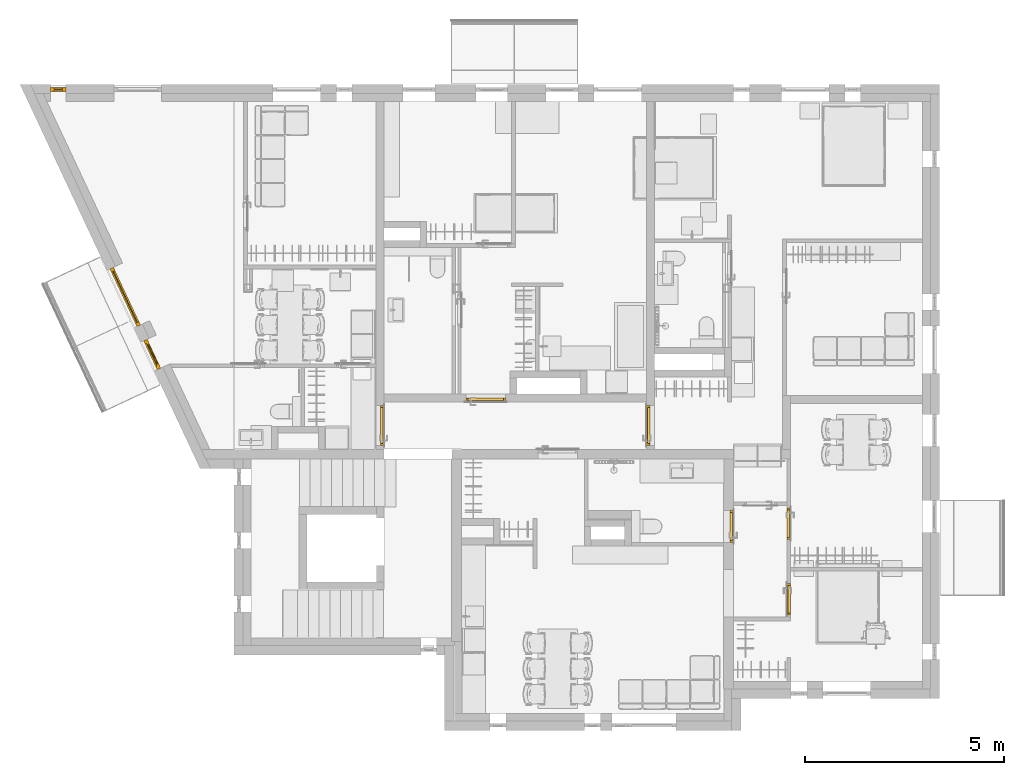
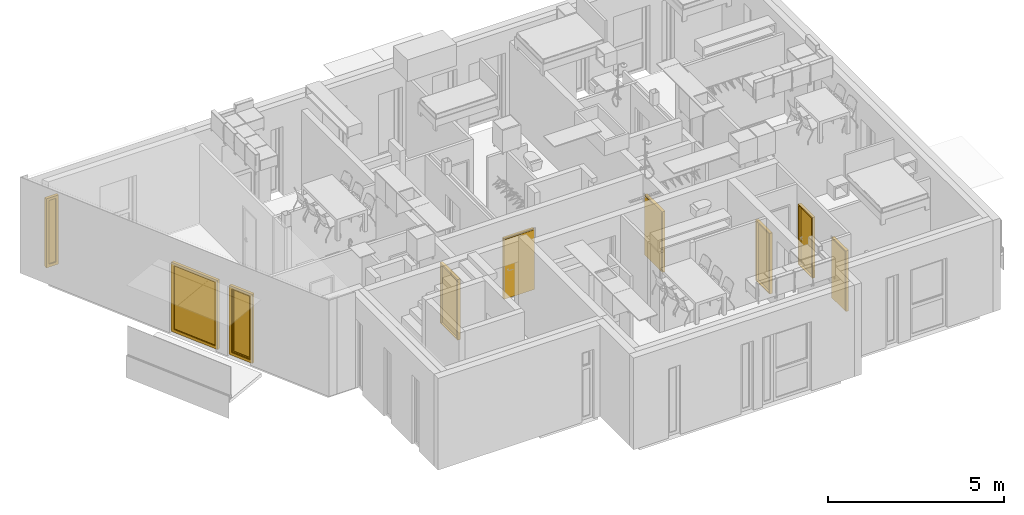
# One storey, part 12 of 68: 6 doors, 3 windows.
"""IFC2X3 building model written with IfcOpenShell, lengths in millimetres."""

import ifcopenshell
import ifcopenshell.guid

model = None  # the IFC model being written
_history = None  # IfcOwnerHistory: only IFC2X3 demands one
_inside = {}  # id of a spatial element -> (the spatial element, [elements in it])
_under = {}  # id of a project, library or spatial element -> (it, [spatial elements below it])
_declared = {}  # id of a project -> (the project, [libraries it declares])
_typed = {}  # id of a type object -> (the type object, [elements of that type])
_made_of = {}  # id of a material, layer set ... -> (it, [elements and type objects made of it])


def new_model(schema):
    """Start an empty IFC model of exactly this schema.

    Asked for "IFC4X3", IfcOpenShell would pick the latest addendum, in which some entities
    have other attributes; the version numbers below select the first issue.
    IFC2X3 requires an IfcOwnerHistory on every rooted entity: one is made here for all.
    """
    global model, _history
    if schema == "IFC4X3":
        model = ifcopenshell.file(schema_version=(4, 3, 0, 0))
    else:
        model = ifcopenshell.file(schema=schema)
    _inside.clear()
    _under.clear()
    _declared.clear()
    _typed.clear()
    _made_of.clear()
    _history = None
    if model.schema == "IFC2X3":
        org = make("IfcOrganization", Name="unknown")
        user = make(
            "IfcPersonAndOrganization",
            ThePerson=make("IfcPerson", FamilyName="unknown"),
            TheOrganization=org,
        )
        app = make(
            "IfcApplication",
            ApplicationDeveloper=org,
            Version="unknown",
            ApplicationFullName="unknown",
            ApplicationIdentifier="unknown",
        )
        _history = make(
            "IfcOwnerHistory",
            OwningUser=user,
            OwningApplication=app,
            ChangeAction="ADDED",
            CreationDate=0,
        )
    return model


def make(cls, **values):
    """One entity of the class cls with the attributes given. An attribute that is None is left unset."""
    return model.create_entity(
        cls, **{name: value for name, value in values.items() if value is not None}
    )


def entity(cls, *values):
    """Any entity or typed value of the class cls, its attributes in the order of the schema. None: left unset."""
    e = model.create_entity(cls)
    for i, value in enumerate(values):
        if value is not None:
            e[i] = value
    return e


def rooted(cls, **values):
    """An entity with a GlobalId (a new one), such as an element, a storey or a relation."""
    return make(cls, GlobalId=ifcopenshell.guid.new(), OwnerHistory=_history, **values)


def si_unit(unit_type, name, prefix=None):
    """IfcSIUnit, for example si_unit("LENGTHUNIT", "METRE", prefix="MILLI")."""
    return make("IfcSIUnit", UnitType=unit_type, Prefix=prefix, Name=name)


def converted_unit(unit_type, name, factor, base, dimensions=None, offset=None):
    """IfcConversionBasedUnit, such as the inch: factor (a typed value) times the base unit."""
    return make(
        "IfcConversionBasedUnit"
        if offset is None
        else "IfcConversionBasedUnitWithOffset",
        ConversionOffset=offset,
        Dimensions=None
        if dimensions is None
        else entity("IfcDimensionalExponents", *dimensions),
        UnitType=unit_type,
        Name=name,
        ConversionFactor=make(
            "IfcMeasureWithUnit", ValueComponent=factor, UnitComponent=base
        ),
    )


def assignment(units):
    """IfcUnitAssignment: the units of a project."""
    return None if units is None else make("IfcUnitAssignment", Units=units)


def point(xyz):
    """IfcCartesianPoint."""
    return None if xyz is None else make("IfcCartesianPoint", Coordinates=xyz)


def direction(xyz):
    """IfcDirection."""
    return None if xyz is None else make("IfcDirection", DirectionRatios=xyz)


def frame(location, z_axis=None, x_axis=None):
    """IfcAxis2Placement3D, a coordinate frame: its origin and axes. An axis left out is left unset."""
    return make(
        "IfcAxis2Placement3D",
        Location=point(location),
        Axis=direction(z_axis),
        RefDirection=direction(x_axis),
    )


def origin():
    """The frame at (0, 0, 0) with its axes left unset."""
    return frame((0.0, 0.0, 0.0))


def place(relative_to, where):
    """IfcLocalPlacement: puts the frame where relative to a parent placement (None: the world)."""
    return make(
        "IfcLocalPlacement", PlacementRelTo=relative_to, RelativePlacement=where
    )


def context(
    kind, dimensions, precision=None, world=None, true_north=None, identifier=None
):
    """IfcGeometricRepresentationContext, for example the 3D "Model" context."""
    return make(
        "IfcGeometricRepresentationContext",
        ContextIdentifier=identifier,
        ContextType=kind,
        CoordinateSpaceDimension=dimensions,
        Precision=precision,
        WorldCoordinateSystem=world,
        TrueNorth=true_north,
    )


def subcontext(parent, identifier, kind, view, scale=None):
    """IfcGeometricRepresentationSubContext, for example "Body" below "Model"."""
    return make(
        "IfcGeometricRepresentationSubContext",
        ContextIdentifier=identifier,
        ContextType=kind,
        ParentContext=parent,
        TargetScale=scale,
        TargetView=view,
    )


def project(units=None, contexts=None):
    """IfcProject with its units and contexts."""
    return rooted(
        "IfcProject",
        Name="project",
        RepresentationContexts=contexts,
        UnitsInContext=assignment(units),
    )


def spatial(cls, under=None, at=None, **own):
    """A site, building, storey or space (cls), placed at a placement, below another one or the project."""
    s = rooted(cls, ObjectPlacement=at, **own)
    if under is not None:
        _under.setdefault(under.id(), (under, []))[1].append(s)
    return s


def faces_of(points, faces, orient=None, outer=None):
    """IfcFace entities. A face is a list of loops; a loop is a list of indices into points, from 0.

    orient and outer hold one flag for each loop. By default every Orientation is true, the
    first loop of a face is its IfcFaceOuterBound and the others are IfcFaceBound.
    """
    made = []
    for i, loops in enumerate(faces):
        bounds = []
        for j, loop in enumerate(loops):
            is_outer = j == 0 if outer is None else outer[i][j]
            bounds.append(
                make(
                    "IfcFaceOuterBound" if is_outer else "IfcFaceBound",
                    Bound=make("IfcPolyLoop", Polygon=[points[k] for k in loop]),
                    Orientation=True if orient is None else orient[i][j],
                )
            )
        made.append(make("IfcFace", Bounds=bounds))
    return made


def faceted_brep(points, faces, orient=None, outer=None, voids=None):
    """IfcFacetedBrep: a solid bounded by flat faces; with voids (closed shells), ...WithVoids."""
    shared = [point(p) for p in points]
    hull = make("IfcClosedShell", CfsFaces=faces_of(shared, faces, orient, outer))
    if voids is None:
        return make("IfcFacetedBrep", Outer=hull)
    return make(
        "IfcFacetedBrepWithVoids",
        Outer=hull,
        Voids=[
            make(cls, CfsFaces=faces_of(shared, fs, o, b)) for cls, fs, o, b in voids
        ],
    )


def shape(context_of_items, identifier, shape_type, items):
    """IfcShapeRepresentation: the items that make up one representation, for example the "Body"."""
    return make(
        "IfcShapeRepresentation",
        ContextOfItems=context_of_items,
        RepresentationIdentifier=identifier,
        RepresentationType=shape_type,
        Items=items,
    )


def source(mapping_origin, context_of_items, identifier, shape_type, items):
    """IfcRepresentationMap: a shape defined once, which mapped items show again and again."""
    return make(
        "IfcRepresentationMap",
        MappingOrigin=mapping_origin,
        MappedRepresentation=shape(context_of_items, identifier, shape_type, items),
    )


def transform(
    local_origin,
    x_axis=None,
    y_axis=None,
    z_axis=None,
    scale=None,
    scale2=None,
    scale3=None,
    uniform=True,
):
    """IfcCartesianTransformationOperator3D, or its non-uniform kind. x_axis, y_axis, z_axis: its Axis1, 2, 3."""
    if uniform:
        return make(
            "IfcCartesianTransformationOperator3D",
            Axis1=direction(x_axis),
            Axis2=direction(y_axis),
            LocalOrigin=point(local_origin),
            Scale=scale,
            Axis3=direction(z_axis),
        )
    return make(
        "IfcCartesianTransformationOperator3DnonUniform",
        Axis1=direction(x_axis),
        Axis2=direction(y_axis),
        LocalOrigin=point(local_origin),
        Scale=scale,
        Axis3=direction(z_axis),
        Scale2=scale2,
        Scale3=scale3,
    )


def mapped(mapping_source, mapping_target):
    """IfcMappedItem: shows the shape of a source again, moved by a transform."""
    return make(
        "IfcMappedItem", MappingSource=mapping_source, MappingTarget=mapping_target
    )


def material(Name=None, Category=None):
    """IfcMaterial."""
    return make("IfcMaterial", Name=Name, Category=Category)


def material_list(materials):
    """IfcMaterialList."""
    return make("IfcMaterialList", Materials=materials)


def made_of(thing, what):
    """Note that an element or type object is made of a material, layer set ...; save() writes the relation."""
    if what is not None:
        _made_of.setdefault(what.id(), (what, []))[1].append(thing)
    return thing


def type_object(cls, material=None, **own):
    """A type object (cls), such as IfcWallType, which elements share."""
    return made_of(rooted(cls, **own), material)


def type_shapes(of_type, sources):
    """Give a type object the sources (RepresentationMaps) that its elements show as mapped items."""
    of_type.RepresentationMaps = sources


def element(
    cls,
    number,
    at=None,
    inside=None,
    cuts=None,
    type_object=None,
    material=None,
    context=None,
    identifier="Body",
    shape_type=None,
    held_by="IfcProductDefinitionShape",
    body=None,
    shapes=None,
    **own,
):
    """One element of the class cls, such as IfcWall. Its Tag is "e" and its number.

    at: its placement. inside: the storey or other place that contains it. cuts: it is an
    opening in that element (IfcRelVoidsElement). A single representation is given by context,
    identifier, shape_type and body (its items); several are given by shapes. held_by: the class
    of the entity that holds the representations. save() writes the other relations.
    """
    e = rooted(cls, Tag="e%d" % number, ObjectPlacement=at, **own)
    if body is not None:
        shapes = [shape(context, identifier, shape_type, body)]
    if shapes is not None:
        e.Representation = make(held_by, Representations=shapes)
    if inside is not None:
        _inside.setdefault(inside.id(), (inside, []))[1].append(e)
    if cuts is not None:
        rooted(
            "IfcRelVoidsElement", RelatingBuildingElement=cuts, RelatedOpeningElement=e
        )
    if type_object is not None:
        _typed.setdefault(type_object.id(), (type_object, []))[1].append(e)
    return made_of(e, material)


def aggregate(whole, parts):
    """IfcRelAggregates: a whole, such as a stair, and the parts it consists of."""
    return rooted("IfcRelAggregates", RelatingObject=whole, RelatedObjects=parts)


def save(model, path):
    """Write the relations noted so far, then the file.

    IfcRelAggregates (storeys below a building ...), IfcRelContainedInSpatialStructure (elements
    in a storey), IfcRelDefinesByType, IfcRelAssociatesMaterial and IfcRelDeclares: one each for
    every whole, place, type object, material and project.
    """
    for whole, parts in _under.values():
        aggregate(whole, parts)
    for where, things in _inside.values():
        rooted(
            "IfcRelContainedInSpatialStructure",
            RelatedElements=things,
            RelatingStructure=where,
        )
    for kind, things in _typed.values():
        rooted("IfcRelDefinesByType", RelatedObjects=things, RelatingType=kind)
    for what, things in _made_of.values():
        rooted("IfcRelAssociatesMaterial", RelatedObjects=things, RelatingMaterial=what)
    for by, libraries in _declared.values():
        rooted("IfcRelDeclares", RelatingContext=by, RelatedDefinitions=libraries)
    model.write(path)


model = new_model("IFC2X3")

# Units and contexts
model_context = context("Model", 3, precision=0.01, world=origin(), true_north=direction((6.123233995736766e-17, 1.0)))
plan_context = context("Plan", 3, precision=0.01, world=origin(), true_north=direction((6.123233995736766e-17, 1.0)))
body_context = subcontext(model_context, "Body", "Model", "MODEL_VIEW")
ifc_project = project(units=[si_unit("LENGTHUNIT", "METRE", prefix="MILLI"), converted_unit("PLANEANGLEUNIT", "DEGREE", entity("IfcPlaneAngleMeasure", 0.017453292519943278), si_unit("PLANEANGLEUNIT", "RADIAN"), dimensions=[0, 0, 0, 0, 0, 0, 0]), si_unit("AREAUNIT", "SQUARE_METRE")], contexts=[model_context, plan_context])

# Site, building, storey
site_placement = place(None, origin())
site = spatial("IfcSite", under=ifc_project, at=site_placement, Name="Default", CompositionType="ELEMENT")
building_placement = place(site_placement, origin())
building = spatial("IfcBuilding", under=site, at=building_placement, CompositionType="ELEMENT")
storey_placement = place(building_placement, frame((0.0, 0.0, 6295.0)))
storey = spatial("IfcBuildingStorey", under=building, at=storey_placement, Name="3K", CompositionType="ELEMENT", Elevation=6294.999999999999)

# Windows
ifc_material_1 = material(Name="_K. Avatäited. Raam. PVC. Valge")
ifc_material_2 = material(Name="_K. Klaas. Pakett")
ifc_material_3 = material(Name="_K. Avatäited. Raam. PVC. RAL9005")
ifc_material_list_1 = material_list([ifc_material_1, ifc_material_2, ifc_material_3])
window_style_1 = type_object("IfcWindowStyle", Name="HR_Window_Generic_Rectangle_1x1:A-01.400x2400.ma", ConstructionType="NOTDEFINED", OperationType="NOTDEFINED", ParameterTakesPrecedence=False, Sizeable=False, material=ifc_material_list_1)
shared_shape_1 = source(origin(), body_context, "Body", "Brep", [
    faceted_brep([(88.0, -194.0, 2312.0), (312.0, -194.0, 2312.0), (312.0, -194.0, 108.0), (88.0, -194.0, 108.0), (342.0, -194.0, 2342.0), (58.0, -194.0, 2342.0), (58.0, -194.0, 78.0), (342.0, -194.0, 78.0), (88.0, -159.0, 2312.0), (88.0, -159.0, 108.0), (312.0, -159.0, 108.0), (342.0, -159.0, 2342.0), (342.0, -159.0, 78.0), (58.0, -159.0, 78.0), (58.0, -159.0, 2342.0), (312.0, -159.0, 2312.0)], [[[0, 1, 2, 3], [4, 5, 6, 7]], [[8, 0, 3, 9]], [[9, 3, 2, 10]], [[11, 12, 13, 14], [15, 8, 9, 10]], [[1, 15, 10, 2]], [[6, 5, 14, 13]], [[7, 6, 13, 12]], [[4, 7, 12, 11]], [[15, 1, 0, 8]], [[5, 4, 11, 14]]], outer=[[False, True], [True], [True], [True, False], [True], [True], [True], [True], [True], [True]]),
    faceted_brep([(342.0, -159.0, 2342.0), (58.0, -159.0, 2342.0), (58.0, -159.0, 78.0), (342.0, -159.0, 78.0), (58.0, -134.0, 2342.0), (58.0, -134.0, 78.0), (342.0, -134.0, 78.0), (342.0, -134.0, 2342.0)], [[[0, 1, 2, 3]], [[2, 1, 4, 5]], [[3, 2, 5, 6]], [[0, 3, 6, 7]], [[7, 6, 5, 4]], [[1, 0, 7, 4]]]),
    faceted_brep([(342.0, -134.0, 78.0), (58.0, -134.0, 78.0), (58.0, -194.0, 78.0), (342.0, -194.0, 78.0), (58.0, -134.0, 2342.0), (58.0, -194.0, 2342.0), (342.0, -134.0, 2342.0), (342.0, -194.0, 2342.0), (88.0, -100.0, 108.0), (88.0, -100.0, 2312.0), (88.0, -134.0, 2312.0), (88.0, -134.0, 108.0), (312.0, -100.0, 108.0), (312.0, -134.0, 108.0), (312.0, -100.0, 2312.0), (312.0, -134.0, 2312.0), (0.0, -100.0, 2400.0), (400.0, -100.0, 2400.0), (400.0, -100.0, 30.0), (0.0, -100.0, 30.0), (400.0, -194.0, 2400.0), (0.0, -194.0, 2400.0), (0.0, -194.0, 30.0), (400.0, -194.0, 30.0), (0.0, -110.0, 30.0), (0.0, -110.0, 0.0), (0.0, -184.0, 0.0), (0.0, -184.0, 30.0), (400.0, -184.0, 30.0), (400.0, -184.0, 0.0), (400.0, -110.0, 0.0), (400.0, -110.0, 30.0)], [[[0, 1, 2, 3]], [[1, 4, 5, 2]], [[6, 0, 3, 7]], [[8, 9, 10, 11]], [[12, 8, 11, 13]], [[14, 12, 13, 15]], [[16, 17, 18, 19], [9, 8, 12, 14]], [[20, 21, 22, 23], [7, 3, 2, 5]], [[21, 16, 19, 24, 25, 26, 27, 22]], [[27, 28, 23, 22]], [[17, 20, 23, 28, 29, 30, 31, 18]], [[31, 24, 19, 18]], [[24, 31, 30, 25]], [[25, 30, 29, 26]], [[28, 27, 26, 29]], [[4, 6, 7, 5]], [[9, 14, 15, 10]], [[21, 20, 17, 16]], [[10, 15, 13, 11], [0, 6, 4, 1]]], outer=[[True], [True], [True], [True], [True], [True], [True, False], [True, False], [True], [True], [True], [True], [True], [True], [True], [True], [True], [True], [False, True]]),
])
type_shapes(window_style_1, [shared_shape_1])
window_1_placement = place(storey_placement, frame((-5055.0, 15850.0, 0.0)))
element("IfcWindow", 1, at=window_1_placement, inside=storey, type_object=window_style_1, material=ifc_material_list_1, Name="HR_Window_Generic_Rectangle_1x1:A-01.400x2400.ma", ObjectType="HR_Window_Generic_Rectangle_1x1:A-01.400x2400.ma", OverallHeight=2465.0000000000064, OverallWidth=400.0000000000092, context=body_context, shape_type="MappedRepresentation", body=[
    mapped(shared_shape_1, transform((0.0, 0.0, 0.0), scale=1.0)),
])
ifc_material_list_2 = material_list([ifc_material_2, ifc_material_3])
window_style_2 = type_object("IfcWindowStyle", Name="HR_Window_Generic_Rectangle_1x1:A-10.800x2400.P", ConstructionType="NOTDEFINED", OperationType="NOTDEFINED", ParameterTakesPrecedence=False, Sizeable=False, material=ifc_material_list_2)
shared_shape_2 = source(origin(), body_context, "Body", "Brep", [
    faceted_brep([(108.0, -154.0, 2292.0), (692.0, -154.0, 2292.0), (692.0, -154.0, 128.0), (108.0, -154.0, 128.0), (692.0, -179.0, 2292.0), (692.0, -179.0, 128.0), (108.0, -179.0, 128.0), (108.0, -179.0, 2292.0)], [[[0, 1, 2, 3]], [[2, 1, 4, 5]], [[3, 2, 5, 6]], [[0, 3, 6, 7]], [[7, 6, 5, 4]], [[1, 0, 7, 4]]]),
    faceted_brep([(692.0, -154.0, 2292.0), (692.0, -154.0, 128.0), (692.0, -179.0, 128.0), (692.0, -179.0, 2292.0), (742.0, -134.0, 2342.0), (58.0, -134.0, 2342.0), (58.0, -194.0, 2342.0), (742.0, -194.0, 2342.0), (128.0, -154.0, 2272.0), (128.0, -134.0, 2272.0), (672.0, -134.0, 2272.0), (672.0, -154.0, 2272.0), (128.0, -179.0, 2272.0), (128.0, -194.0, 2272.0), (128.0, -194.0, 148.0), (128.0, -179.0, 148.0), (742.0, -134.0, 78.0), (742.0, -194.0, 78.0), (58.0, -194.0, 78.0), (58.0, -134.0, 78.0), (672.0, -194.0, 2272.0), (672.0, -194.0, 148.0), (128.0, -134.0, 148.0), (672.0, -134.0, 148.0), (128.0, -154.0, 148.0), (672.0, -154.0, 148.0), (108.0, -154.0, 128.0), (108.0, -179.0, 128.0), (108.0, -154.0, 2292.0), (108.0, -179.0, 2292.0), (672.0, -179.0, 2272.0), (672.0, -179.0, 148.0)], [[[0, 1, 2, 3]], [[4, 5, 6, 7]], [[8, 9, 10, 11]], [[12, 13, 14, 15]], [[16, 17, 18, 19]], [[4, 7, 17, 16]], [[13, 20, 21, 14], [7, 6, 18, 17]], [[6, 5, 19, 18]], [[5, 4, 16, 19], [10, 9, 22, 23]], [[9, 8, 24, 22]], [[25, 23, 22, 24]], [[11, 10, 23, 25]], [[1, 26, 27, 2]], [[26, 28, 29, 27]], [[28, 26, 1, 0], [8, 11, 25, 24]], [[28, 0, 3, 29]], [[20, 30, 31, 21]], [[21, 31, 15, 14]], [[29, 3, 2, 27], [30, 12, 15, 31]], [[13, 12, 30, 20]]], outer=[[True], [True], [True], [True], [True], [True], [False, True], [True], [True, False], [True], [True], [True], [True], [True], [True, False], [True], [True], [True], [True, False], [True]]),
    faceted_brep([(742.0, -134.0, 78.0), (58.0, -134.0, 78.0), (58.0, -194.0, 78.0), (742.0, -194.0, 78.0), (58.0, -134.0, 2342.0), (58.0, -194.0, 2342.0), (742.0, -134.0, 2342.0), (742.0, -194.0, 2342.0), (88.0, -100.0, 108.0), (88.0, -100.0, 2312.0), (88.0, -134.0, 2312.0), (88.0, -134.0, 108.0), (712.0, -100.0, 108.0), (712.0, -134.0, 108.0), (712.0, -100.0, 2312.0), (712.0, -134.0, 2312.0), (0.0, -100.0, 2400.0), (800.0, -100.0, 2400.0), (800.0, -100.0, 30.0), (0.0, -100.0, 30.0), (800.0, -194.0, 2400.0), (0.0, -194.0, 2400.0), (0.0, -194.0, 30.0), (800.0, -194.0, 30.0), (0.0, -110.0, 30.0), (0.0, -110.0, 0.0), (0.0, -184.0, 0.0), (0.0, -184.0, 30.0), (800.0, -184.0, 30.0), (800.0, -184.0, 0.0), (800.0, -110.0, 0.0), (800.0, -110.0, 30.0)], [[[0, 1, 2, 3]], [[1, 4, 5, 2]], [[6, 0, 3, 7]], [[8, 9, 10, 11]], [[12, 8, 11, 13]], [[14, 12, 13, 15]], [[16, 17, 18, 19], [9, 8, 12, 14]], [[20, 21, 22, 23], [7, 3, 2, 5]], [[21, 16, 19, 24, 25, 26, 27, 22]], [[27, 28, 23, 22]], [[17, 20, 23, 28, 29, 30, 31, 18]], [[31, 24, 19, 18]], [[24, 31, 30, 25]], [[25, 30, 29, 26]], [[28, 27, 26, 29]], [[4, 6, 7, 5]], [[9, 14, 15, 10]], [[21, 20, 17, 16]], [[10, 15, 13, 11], [0, 6, 4, 1]]], outer=[[True], [True], [True], [True], [True], [True], [True, False], [True, False], [True], [True], [True], [True], [True], [True], [True], [True], [True], [True], [False, True]]),
])
type_shapes(window_style_2, [shared_shape_2])
window_2_placement = place(storey_placement, frame((-2454.523283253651, 8606.331187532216, 0.0), z_axis=(0.0, 0.0, 1.0), x_axis=(-0.4244338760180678, 0.905458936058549, 0.0)))
element("IfcWindow", 2, at=window_2_placement, inside=storey, type_object=window_style_2, material=ifc_material_list_2, Name="HR_Window_Generic_Rectangle_1x1:A-10.800x2400.P", ObjectType="HR_Window_Generic_Rectangle_1x1:A-10.800x2400.P", OverallHeight=2465.0000000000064, OverallWidth=800.000000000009, context=body_context, shape_type="MappedRepresentation", body=[
    mapped(shared_shape_2, transform((0.0, 0.0, 0.0), scale=1.0)),
])
window_style_3 = type_object("IfcWindowStyle", Name="HR_Window_Generic_Rectangle_1x1:A-04.1600x2400.ma", ConstructionType="NOTDEFINED", OperationType="NOTDEFINED", ParameterTakesPrecedence=False, Sizeable=False, material=ifc_material_list_1)
shared_shape_3 = source(origin(), body_context, "Body", "Brep", [
    faceted_brep([(88.0, -194.0, 2312.0), (1512.0, -194.0, 2312.0), (1512.0, -194.0, 108.0), (88.0, -194.0, 108.0), (1542.0, -194.0, 2342.0), (58.0, -194.0, 2342.0), (58.0, -194.0, 78.0), (1542.0, -194.0, 78.0), (88.0, -159.0, 2312.0), (88.0, -159.0, 108.0), (1512.0, -159.0, 108.0), (1542.0, -159.0, 2342.0), (1542.0, -159.0, 78.0), (58.0, -159.0, 78.0), (58.0, -159.0, 2342.0), (1512.0, -159.0, 2312.0)], [[[0, 1, 2, 3], [4, 5, 6, 7]], [[8, 0, 3, 9]], [[9, 3, 2, 10]], [[11, 12, 13, 14], [15, 8, 9, 10]], [[1, 15, 10, 2]], [[6, 5, 14, 13]], [[7, 6, 13, 12]], [[4, 7, 12, 11]], [[15, 1, 0, 8]], [[5, 4, 11, 14]]], outer=[[False, True], [True], [True], [True, False], [True], [True], [True], [True], [True], [True]]),
    faceted_brep([(1542.0, -159.0, 2342.0), (58.0, -159.0, 2342.0), (58.0, -159.0, 78.0), (1542.0, -159.0, 78.0), (58.0, -134.0, 2342.0), (58.0, -134.0, 78.0), (1542.0, -134.0, 78.0), (1542.0, -134.0, 2342.0)], [[[0, 1, 2, 3]], [[2, 1, 4, 5]], [[3, 2, 5, 6]], [[0, 3, 6, 7]], [[7, 6, 5, 4]], [[1, 0, 7, 4]]]),
    faceted_brep([(1542.0, -134.0, 78.0), (58.0, -134.0, 78.0), (58.0, -194.0, 78.0), (1542.0, -194.0, 78.0), (58.0, -134.0, 2342.0), (58.0, -194.0, 2342.0), (1542.0, -134.0, 2342.0), (1542.0, -194.0, 2342.0), (88.0, -100.0, 108.0), (88.0, -100.0, 2312.0), (88.0, -134.0, 2312.0), (88.0, -134.0, 108.0), (1512.0, -100.0, 108.0), (1512.0, -134.0, 108.0), (1512.0, -100.0, 2312.0), (1512.0, -134.0, 2312.0), (0.0, -100.0, 2400.0), (1600.0, -100.0, 2400.0), (1600.0, -100.0, 30.0), (0.0, -100.0, 30.0), (1600.0, -194.0, 2400.0), (0.0, -194.0, 2400.0), (0.0, -194.0, 30.0), (1600.0, -194.0, 30.0), (0.0, -110.0, 30.0), (0.0, -110.0, 0.0), (0.0, -184.0, 0.0), (0.0, -184.0, 30.0), (1600.0, -184.0, 30.0), (1600.0, -184.0, 0.0), (1600.0, -110.0, 0.0), (1600.0, -110.0, 30.0)], [[[0, 1, 2, 3]], [[1, 4, 5, 2]], [[6, 0, 3, 7]], [[8, 9, 10, 11]], [[12, 8, 11, 13]], [[14, 12, 13, 15]], [[16, 17, 18, 19], [9, 8, 12, 14]], [[20, 21, 22, 23], [7, 3, 2, 5]], [[21, 16, 19, 24, 25, 26, 27, 22]], [[27, 28, 23, 22]], [[17, 20, 23, 28, 29, 30, 31, 18]], [[31, 24, 19, 18]], [[24, 31, 30, 25]], [[25, 30, 29, 26]], [[28, 27, 26, 29]], [[4, 6, 7, 5]], [[9, 14, 15, 10]], [[21, 20, 17, 16]], [[10, 15, 13, 11], [0, 6, 4, 1]]], outer=[[True], [True], [True], [True], [True], [True], [True, False], [True, False], [True], [True], [True], [True], [True], [True], [True], [True], [True], [True], [False, True]]),
])
type_shapes(window_style_3, [shared_shape_3])
window_3_placement = place(storey_placement, frame((-2963.843934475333, 9692.881910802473, 0.0), z_axis=(0.0, 0.0, 1.0), x_axis=(-0.4244338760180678, 0.905458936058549, 0.0)))
element("IfcWindow", 3, at=window_3_placement, inside=storey, type_object=window_style_3, material=ifc_material_list_1, Name="HR_Window_Generic_Rectangle_1x1:A-04.1600x2400.ma", ObjectType="HR_Window_Generic_Rectangle_1x1:A-04.1600x2400.ma", OverallHeight=2465.0000000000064, OverallWidth=1600.0000000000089, context=body_context, shape_type="MappedRepresentation", body=[
    mapped(shared_shape_3, transform((0.0, 0.0, 0.0), scale=1.0)),
])

# Doors
ifc_material_4 = material(Name="<Unnamed>")
ifc_material_5 = material(Name="Default")
ifc_material_list_3 = material_list([ifc_material_4, ifc_material_5])
door_style_1 = type_object("IfcDoorStyle", Name="HR_Generic_Hinged_Single:Default. Manteluks lävepakuga. 1000 x 2100 mm. Left", ConstructionType="NOTDEFINED", OperationType="NOTDEFINED", ParameterTakesPrecedence=False, Sizeable=False, material=ifc_material_list_3)
shared_shape_4 = source(origin(), body_context, "Body", "Brep", [
    faceted_brep([(965.0, -1000.0, 20.0), (35.0, -1000.0, 20.0), (35.0, -1030.0, 20.0), (50.0, -1030.0, 20.0), (50.0, -1092.0, 20.0), (950.0, -1092.0, 20.0), (950.0, -1030.0, 20.0), (965.0, -1030.0, 20.0), (35.0, -1000.0, 0.0), (965.0, -1000.0, 0.0), (965.0, -1030.0, 0.0), (950.0, -1030.0, 0.0), (950.0, -1092.0, 0.0), (50.0, -1092.0, 0.0), (50.0, -1030.0, 0.0), (35.0, -1030.0, 0.0)], [[[0, 1, 2, 3, 4, 5, 6, 7]], [[8, 9, 10, 11, 12, 13, 14, 15]], [[1, 0, 9, 8]], [[5, 4, 13, 12]], [[2, 1, 8, 15]], [[0, 7, 10, 9]], [[3, 14, 13, 4]], [[14, 3, 2, 15]], [[6, 11, 10, 7]], [[11, 6, 5, 12]]]),
    faceted_brep([(37.0, -1030.0, 2060.0), (37.0, -1030.0, 25.0), (963.0, -1030.0, 25.0), (963.0, -1030.0, 2060.0), (27.0, -990.0, 25.0), (27.0, -990.0, 2070.0), (973.0, -990.0, 2070.0), (973.0, -990.0, 25.0), (37.0, -1000.0, 2060.0), (37.0, -1000.0, 25.0), (27.0, -1000.0, 25.0), (973.0, -1000.0, 25.0), (963.0, -1000.0, 25.0), (963.0, -1000.0, 2060.0), (27.0, -1000.0, 2070.0), (973.0, -1000.0, 2070.0)], [[[0, 1, 2, 3]], [[4, 5, 6, 7]], [[1, 0, 8, 9]], [[2, 1, 9, 10, 4, 7, 11, 12]], [[3, 2, 12, 13]], [[0, 3, 13, 8]], [[14, 10, 9, 8, 13, 12, 11, 15]], [[6, 5, 14, 15]], [[7, 6, 15, 11]], [[5, 4, 10, 14]]]),
    faceted_brep([(1000.0, -1092.0, 0.0), (950.0, -1092.0, 0.0), (950.0, -1030.0, 0.0), (965.0, -1030.0, 0.0), (965.0, -1000.0, 0.0), (1000.0, -1000.0, 0.0), (1000.0, -1092.0, 2100.0), (0.0, -1092.0, 2100.0), (0.0, -1092.0, 0.0), (50.0, -1092.0, 0.0), (50.0, -1092.0, 2050.0), (950.0, -1092.0, 2050.0), (950.0, -1030.0, 2050.0), (35.0, -1030.0, 2065.0), (965.0, -1030.0, 2065.0), (50.0, -1030.0, 2050.0), (50.0, -1030.0, 0.0), (35.0, -1030.0, 0.0), (965.0, -1000.0, 2065.0), (0.0, -1000.0, 0.0), (0.0, -1000.0, 2100.0), (1000.0, -1000.0, 2100.0), (35.0, -1000.0, 2065.0), (35.0, -1000.0, 0.0)], [[[0, 1, 2, 3, 4, 5]], [[1, 0, 6, 7, 8, 9, 10, 11]], [[1, 11, 12, 2]], [[13, 14, 3, 2, 12, 15, 16, 17]], [[3, 14, 18, 4]], [[19, 20, 21, 5, 4, 18, 22, 23]], [[0, 5, 21, 6]], [[8, 19, 23, 17, 16, 9]], [[19, 8, 7, 20]], [[13, 17, 23, 22]], [[10, 9, 16, 15]], [[7, 6, 21, 20]], [[11, 10, 15, 12]], [[14, 13, 22, 18]]]),
])
type_shapes(door_style_1, [shared_shape_4])
door_1_placement = place(storey_placement, frame((8950.0, 6744.999979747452, 0.0), z_axis=(0.0, 0.0, 1.0), x_axis=(0.0, 1.0, 0.0)))
element("IfcDoor", 4, at=door_1_placement, inside=storey, type_object=door_style_1, material=ifc_material_list_3, Name="HR_Generic_Hinged_Single:Default. Manteluks lävepakuga. 1000 x 2100 mm. Left", ObjectType="HR_Generic_Hinged_Single:Default. Manteluks lävepakuga. 1000 x 2100 mm. Left", OverallHeight=2130.000000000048, OverallWidth=1060.0000000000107, context=body_context, shape_type="MappedRepresentation", body=[
    mapped(shared_shape_4, transform((0.0, 0.0, 0.0), scale=1.0)),
])
door_style_2 = type_object("IfcDoorStyle", Name="HR_Generic_Hinged_Single:Default. Manteluks lävepakuga. 1000 x 2100 mm. Right", ConstructionType="NOTDEFINED", OperationType="NOTDEFINED", ParameterTakesPrecedence=False, Sizeable=False, material=ifc_material_4)
shared_shape_5 = source(origin(), body_context, "Body", "Brep", [
    faceted_brep([(965.0, 1092.0, 20.0), (35.0, 1092.0, 20.0), (35.0, 1062.0, 20.0), (50.0, 1062.0, 20.0), (50.0, 1000.0, 20.0), (950.0, 1000.0, 20.0), (950.0, 1062.0, 20.0), (965.0, 1062.0, 20.0), (35.0, 1092.0, 0.0), (965.0, 1092.0, 0.0), (965.0, 1062.0, 0.0), (950.0, 1062.0, 0.0), (950.0, 1000.0, 0.0), (50.0, 1000.0, 0.0), (50.0, 1062.0, 0.0), (35.0, 1062.0, 0.0)], [[[0, 1, 2, 3, 4, 5, 6, 7]], [[8, 9, 10, 11, 12, 13, 14, 15]], [[1, 0, 9, 8]], [[5, 4, 13, 12]], [[2, 1, 8, 15]], [[0, 7, 10, 9]], [[3, 14, 13, 4]], [[14, 3, 2, 15]], [[6, 11, 10, 7]], [[11, 6, 5, 12]]]),
    faceted_brep([(37.0, 1062.0, 2060.0), (37.0, 1062.0, 25.0), (963.0, 1062.0, 25.0), (963.0, 1062.0, 2060.0), (27.0, 1102.0, 25.0), (27.0, 1102.0, 2070.0), (973.0, 1102.0, 2070.0), (973.0, 1102.0, 25.0), (37.0, 1092.0, 2060.0), (37.0, 1092.0, 25.0), (27.0, 1092.0, 25.0), (973.0, 1092.0, 25.0), (963.0, 1092.0, 25.0), (963.0, 1092.0, 2060.0), (27.0, 1092.0, 2070.0), (973.0, 1092.0, 2070.0)], [[[0, 1, 2, 3]], [[4, 5, 6, 7]], [[1, 0, 8, 9]], [[2, 1, 9, 10, 4, 7, 11, 12]], [[3, 2, 12, 13]], [[0, 3, 13, 8]], [[14, 10, 9, 8, 13, 12, 11, 15]], [[6, 5, 14, 15]], [[7, 6, 15, 11]], [[5, 4, 10, 14]]]),
    faceted_brep([(1000.0, 1000.0, 0.0), (950.0, 1000.0, 0.0), (950.0, 1062.0, 0.0), (965.0, 1062.0, 0.0), (965.0, 1092.0, 0.0), (1000.0, 1092.0, 0.0), (1000.0, 1000.0, 2100.0), (0.0, 1000.0, 2100.0), (0.0, 1000.0, 0.0), (50.0, 1000.0, 0.0), (50.0, 1000.0, 2050.0), (950.0, 1000.0, 2050.0), (950.0, 1062.0, 2050.0), (35.0, 1062.0, 2065.0), (965.0, 1062.0, 2065.0), (50.0, 1062.0, 2050.0), (50.0, 1062.0, 0.0), (35.0, 1062.0, 0.0), (965.0, 1092.0, 2065.0), (0.0, 1092.0, 0.0), (0.0, 1092.0, 2100.0), (1000.0, 1092.0, 2100.0), (35.0, 1092.0, 2065.0), (35.0, 1092.0, 0.0)], [[[0, 1, 2, 3, 4, 5]], [[1, 0, 6, 7, 8, 9, 10, 11]], [[1, 11, 12, 2]], [[13, 14, 3, 2, 12, 15, 16, 17]], [[3, 14, 18, 4]], [[19, 20, 21, 5, 4, 18, 22, 23]], [[0, 5, 21, 6]], [[8, 19, 23, 17, 16, 9]], [[19, 8, 7, 20]], [[13, 17, 23, 22]], [[10, 9, 16, 15]], [[7, 6, 21, 20]], [[11, 10, 15, 12]], [[14, 13, 22, 18]]]),
])
type_shapes(door_style_2, [shared_shape_5])
for number, where, z_axis, x_axis, name in (
    (5, (2252.9935349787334, 7744.999979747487, 0.0), (0.0, 0.0, 1.0), (0.0, -1.0, 0.0), "HR_Generic_Hinged_Single:Default. Manteluks lävepakuga. 1000 x 2100 mm. Right"),
    (6, (6404.0, 8932.0, 0.0), (0.0, 0.0, 1.0), (-1.0, 0.0, 0.0), "HR_Generic_Hinged_Single:Default. Manteluks lävepakuga. 1000 x 2100 mm. Right"),
):
    element("IfcDoor", number, at=place(storey_placement, frame(where, z_axis=z_axis, x_axis=x_axis)), inside=storey, type_object=door_style_2, material=ifc_material_4, Name=name, ObjectType="HR_Generic_Hinged_Single:Default. Manteluks lävepakuga. 1000 x 2100 mm. Right", OverallHeight=2130.000000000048, OverallWidth=1060.0000000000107, context=body_context, shape_type="MappedRepresentation", body=[
        mapped(shared_shape_5, transform((0.0, 0.0, 0.0), scale=1.0)),
    ])
ifc_material_6 = material(Name="_K. Puit. Peitsitud ja lakitud")
door_style_3 = type_object("IfcDoorStyle", Name="HR_Generic_Hinged_Single:Default. Manteluks lävepakuga. 800 x 2100 mm. Right", ConstructionType="NOTDEFINED", OperationType="NOTDEFINED", ParameterTakesPrecedence=False, Sizeable=False, material=ifc_material_6)
shared_shape_6 = source(origin(), body_context, "Body", "Brep", [
    faceted_brep([(765.0, -1000.0, 20.0), (35.0, -1000.0, 20.0), (35.0, -1030.0, 20.0), (50.0, -1030.0, 20.0), (50.0, -1092.0, 20.0), (750.0, -1092.0, 20.0), (750.0, -1030.0, 20.0), (765.0, -1030.0, 20.0), (35.0, -1000.0, 0.0), (765.0, -1000.0, 0.0), (765.0, -1030.0, 0.0), (750.0, -1030.0, 0.0), (750.0, -1092.0, 0.0), (50.0, -1092.0, 0.0), (50.0, -1030.0, 0.0), (35.0, -1030.0, 0.0)], [[[0, 1, 2, 3, 4, 5, 6, 7]], [[8, 9, 10, 11, 12, 13, 14, 15]], [[1, 0, 9, 8]], [[5, 4, 13, 12]], [[2, 1, 8, 15]], [[0, 7, 10, 9]], [[3, 14, 13, 4]], [[14, 3, 2, 15]], [[6, 11, 10, 7]], [[11, 6, 5, 12]]]),
    faceted_brep([(37.0, -1030.0, 2060.0), (37.0, -1030.0, 25.0), (763.0, -1030.0, 25.0), (763.0, -1030.0, 2060.0), (27.0, -990.0, 25.0), (27.0, -990.0, 2070.0), (773.0, -990.0, 2070.0), (773.0, -990.0, 25.0), (37.0, -1000.0, 2060.0), (37.0, -1000.0, 25.0), (27.0, -1000.0, 25.0), (773.0, -1000.0, 25.0), (763.0, -1000.0, 25.0), (763.0, -1000.0, 2060.0), (27.0, -1000.0, 2070.0), (773.0, -1000.0, 2070.0)], [[[0, 1, 2, 3]], [[4, 5, 6, 7]], [[1, 0, 8, 9]], [[2, 1, 9, 10, 4, 7, 11, 12]], [[3, 2, 12, 13]], [[0, 3, 13, 8]], [[14, 10, 9, 8, 13, 12, 11, 15]], [[6, 5, 14, 15]], [[7, 6, 15, 11]], [[5, 4, 10, 14]]]),
    faceted_brep([(800.0, -1092.0, 0.0), (750.0, -1092.0, 0.0), (750.0, -1030.0, 0.0), (765.0, -1030.0, 0.0), (765.0, -1000.0, 0.0), (800.0, -1000.0, 0.0), (800.0, -1092.0, 2100.0), (0.0, -1092.0, 2100.0), (0.0, -1092.0, 0.0), (50.0, -1092.0, 0.0), (50.0, -1092.0, 2050.0), (750.0, -1092.0, 2050.0), (750.0, -1030.0, 2050.0), (35.0, -1030.0, 2065.0), (765.0, -1030.0, 2065.0), (50.0, -1030.0, 2050.0), (50.0, -1030.0, 0.0), (35.0, -1030.0, 0.0), (765.0, -1000.0, 2065.0), (0.0, -1000.0, 0.0), (0.0, -1000.0, 2100.0), (800.0, -1000.0, 2100.0), (35.0, -1000.0, 2065.0), (35.0, -1000.0, 0.0)], [[[0, 1, 2, 3, 4, 5]], [[1, 0, 6, 7, 8, 9, 10, 11]], [[1, 11, 12, 2]], [[13, 14, 3, 2, 12, 15, 16, 17]], [[3, 14, 18, 4]], [[19, 20, 21, 5, 4, 18, 22, 23]], [[0, 5, 21, 6]], [[8, 19, 23, 17, 16, 9]], [[19, 8, 7, 20]], [[13, 17, 23, 22]], [[10, 9, 16, 15]], [[7, 6, 21, 20]], [[11, 10, 15, 12]], [[14, 13, 22, 18]]]),
])
type_shapes(door_style_3, [shared_shape_6])
door_2_placement = place(storey_placement, frame((12488.0, 2469.999959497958, 0.0), z_axis=(0.0, 0.0, 1.0), x_axis=(0.0, 1.0, 0.0)))
element("IfcDoor", 7, at=door_2_placement, inside=storey, type_object=door_style_3, material=ifc_material_6, Name="HR_Generic_Hinged_Single:Default. Manteluks lävepakuga. 800 x 2100 mm. Right", ObjectType="HR_Generic_Hinged_Single:Default. Manteluks lävepakuga. 800 x 2100 mm. Right", OverallHeight=2130.000000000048, OverallWidth=860.0000000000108, context=body_context, shape_type="MappedRepresentation", body=[
    mapped(shared_shape_6, transform((0.0, 0.0, 0.0), scale=1.0)),
])
door_style_4 = type_object("IfcDoorStyle", Name="HR_Generic_Hinged_Single:Default. Manteluks lävepakuga. 800 x 2100 mm. Left", ConstructionType="NOTDEFINED", OperationType="NOTDEFINED", ParameterTakesPrecedence=False, Sizeable=False, material=ifc_material_6)
shared_shape_7 = source(origin(), body_context, "Body", "Brep", [
    faceted_brep([(765.0, 1092.0, 20.0), (35.0, 1092.0, 20.0), (35.0, 1062.0, 20.0), (50.0, 1062.0, 20.0), (50.0, 1000.0, 20.0), (750.0, 1000.0, 20.0), (750.0, 1062.0, 20.0), (765.0, 1062.0, 20.0), (35.0, 1092.0, 0.0), (765.0, 1092.0, 0.0), (765.0, 1062.0, 0.0), (750.0, 1062.0, 0.0), (750.0, 1000.0, 0.0), (50.0, 1000.0, 0.0), (50.0, 1062.0, 0.0), (35.0, 1062.0, 0.0)], [[[0, 1, 2, 3, 4, 5, 6, 7]], [[8, 9, 10, 11, 12, 13, 14, 15]], [[1, 0, 9, 8]], [[5, 4, 13, 12]], [[2, 1, 8, 15]], [[0, 7, 10, 9]], [[3, 14, 13, 4]], [[14, 3, 2, 15]], [[6, 11, 10, 7]], [[11, 6, 5, 12]]]),
    faceted_brep([(37.0, 1062.0, 2060.0), (37.0, 1062.0, 25.0), (763.0, 1062.0, 25.0), (763.0, 1062.0, 2060.0), (27.0, 1102.0, 25.0), (27.0, 1102.0, 2070.0), (773.0, 1102.0, 2070.0), (773.0, 1102.0, 25.0), (37.0, 1092.0, 2060.0), (37.0, 1092.0, 25.0), (27.0, 1092.0, 25.0), (773.0, 1092.0, 25.0), (763.0, 1092.0, 25.0), (763.0, 1092.0, 2060.0), (27.0, 1092.0, 2070.0), (773.0, 1092.0, 2070.0)], [[[0, 1, 2, 3]], [[4, 5, 6, 7]], [[1, 0, 8, 9]], [[2, 1, 9, 10, 4, 7, 11, 12]], [[3, 2, 12, 13]], [[0, 3, 13, 8]], [[14, 10, 9, 8, 13, 12, 11, 15]], [[6, 5, 14, 15]], [[7, 6, 15, 11]], [[5, 4, 10, 14]]]),
    faceted_brep([(800.0, 1000.0, 0.0), (750.0, 1000.0, 0.0), (750.0, 1062.0, 0.0), (765.0, 1062.0, 0.0), (765.0, 1092.0, 0.0), (800.0, 1092.0, 0.0), (800.0, 1000.0, 2100.0), (0.0, 1000.0, 2100.0), (0.0, 1000.0, 0.0), (50.0, 1000.0, 0.0), (50.0, 1000.0, 2050.0), (750.0, 1000.0, 2050.0), (750.0, 1062.0, 2050.0), (35.0, 1062.0, 2065.0), (765.0, 1062.0, 2065.0), (50.0, 1062.0, 2050.0), (50.0, 1062.0, 0.0), (35.0, 1062.0, 0.0), (765.0, 1092.0, 2065.0), (0.0, 1092.0, 0.0), (0.0, 1092.0, 2100.0), (800.0, 1092.0, 2100.0), (35.0, 1092.0, 2065.0), (35.0, 1092.0, 0.0)], [[[0, 1, 2, 3, 4, 5]], [[1, 0, 6, 7, 8, 9, 10, 11]], [[1, 11, 12, 2]], [[13, 14, 3, 2, 12, 15, 16, 17]], [[3, 14, 18, 4]], [[19, 20, 21, 5, 4, 18, 22, 23]], [[0, 5, 21, 6]], [[8, 19, 23, 17, 16, 9]], [[19, 8, 7, 20]], [[13, 17, 23, 22]], [[10, 9, 16, 15]], [[7, 6, 21, 20]], [[11, 10, 15, 12]], [[14, 13, 22, 18]]]),
])
type_shapes(door_style_4, [shared_shape_7])
door_3_placement = place(storey_placement, frame((12488.0, 5172.0, 0.0), z_axis=(0.0, 0.0, 1.0), x_axis=(0.0, -1.0, 0.0)))
element("IfcDoor", 8, at=door_3_placement, inside=storey, type_object=door_style_4, material=ifc_material_6, Name="HR_Generic_Hinged_Single:Default. Manteluks lävepakuga. 800 x 2100 mm. Left", ObjectType="HR_Generic_Hinged_Single:Default. Manteluks lävepakuga. 800 x 2100 mm. Left", OverallHeight=2130.000000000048, OverallWidth=860.0000000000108, context=body_context, shape_type="MappedRepresentation", body=[
    mapped(shared_shape_7, transform((0.0, 0.0, 0.0), scale=1.0)),
])
door_style_5 = type_object("IfcDoorStyle", Name="HR_Generic_Hinged_Single:Default. Manteluks lävepakuga. 800 x 2100 mm. Right", ConstructionType="NOTDEFINED", OperationType="NOTDEFINED", ParameterTakesPrecedence=False, Sizeable=False, material=ifc_material_6)
shared_shape_8 = source(origin(), body_context, "Body", "Brep", [
    faceted_brep([(765.0, 1092.0, 20.0), (35.0, 1092.0, 20.0), (35.0, 1062.0, 20.0), (50.0, 1062.0, 20.0), (50.0, 1000.0, 20.0), (750.0, 1000.0, 20.0), (750.0, 1062.0, 20.0), (765.0, 1062.0, 20.0), (35.0, 1092.0, 0.0), (765.0, 1092.0, 0.0), (765.0, 1062.0, 0.0), (750.0, 1062.0, 0.0), (750.0, 1000.0, 0.0), (50.0, 1000.0, 0.0), (50.0, 1062.0, 0.0), (35.0, 1062.0, 0.0)], [[[0, 1, 2, 3, 4, 5, 6, 7]], [[8, 9, 10, 11, 12, 13, 14, 15]], [[1, 0, 9, 8]], [[5, 4, 13, 12]], [[2, 1, 8, 15]], [[0, 7, 10, 9]], [[3, 14, 13, 4]], [[14, 3, 2, 15]], [[6, 11, 10, 7]], [[11, 6, 5, 12]]]),
    faceted_brep([(37.0, 1062.0, 2060.0), (37.0, 1062.0, 25.0), (763.0, 1062.0, 25.0), (763.0, 1062.0, 2060.0), (27.0, 1102.0, 25.0), (27.0, 1102.0, 2070.0), (773.0, 1102.0, 2070.0), (773.0, 1102.0, 25.0), (37.0, 1092.0, 2060.0), (37.0, 1092.0, 25.0), (27.0, 1092.0, 25.0), (773.0, 1092.0, 25.0), (763.0, 1092.0, 25.0), (763.0, 1092.0, 2060.0), (27.0, 1092.0, 2070.0), (773.0, 1092.0, 2070.0)], [[[0, 1, 2, 3]], [[4, 5, 6, 7]], [[1, 0, 8, 9]], [[2, 1, 9, 10, 4, 7, 11, 12]], [[3, 2, 12, 13]], [[0, 3, 13, 8]], [[14, 10, 9, 8, 13, 12, 11, 15]], [[6, 5, 14, 15]], [[7, 6, 15, 11]], [[5, 4, 10, 14]]]),
    faceted_brep([(800.0, 1000.0, 0.0), (750.0, 1000.0, 0.0), (750.0, 1062.0, 0.0), (765.0, 1062.0, 0.0), (765.0, 1092.0, 0.0), (800.0, 1092.0, 0.0), (800.0, 1000.0, 2100.0), (0.0, 1000.0, 2100.0), (0.0, 1000.0, 0.0), (50.0, 1000.0, 0.0), (50.0, 1000.0, 2050.0), (750.0, 1000.0, 2050.0), (750.0, 1062.0, 2050.0), (35.0, 1062.0, 2065.0), (765.0, 1062.0, 2065.0), (50.0, 1062.0, 2050.0), (50.0, 1062.0, 0.0), (35.0, 1062.0, 0.0), (765.0, 1092.0, 2065.0), (0.0, 1092.0, 0.0), (0.0, 1092.0, 2100.0), (800.0, 1092.0, 2100.0), (35.0, 1092.0, 2065.0), (35.0, 1092.0, 0.0)], [[[0, 1, 2, 3, 4, 5]], [[1, 0, 6, 7, 8, 9, 10, 11]], [[1, 11, 12, 2]], [[13, 14, 3, 2, 12, 15, 16, 17]], [[3, 14, 18, 4]], [[19, 20, 21, 5, 4, 18, 22, 23]], [[0, 5, 21, 6]], [[8, 19, 23, 17, 16, 9]], [[19, 8, 7, 20]], [[13, 17, 23, 22]], [[10, 9, 16, 15]], [[7, 6, 21, 20]], [[11, 10, 15, 12]], [[14, 13, 22, 18]]]),
])
type_shapes(door_style_5, [shared_shape_8])
door_4_placement = place(storey_placement, frame((11052.993534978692, 5099.997631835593, 0.0), z_axis=(0.0, 0.0, 1.0), x_axis=(0.0, -1.0, 0.0)))
element("IfcDoor", 9, at=door_4_placement, inside=storey, type_object=door_style_5, material=ifc_material_6, Name="HR_Generic_Hinged_Single:Default. Manteluks lävepakuga. 800 x 2100 mm. Right", ObjectType="HR_Generic_Hinged_Single:Default. Manteluks lävepakuga. 800 x 2100 mm. Right", OverallHeight=2130.000000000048, OverallWidth=860.0000000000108, context=body_context, shape_type="MappedRepresentation", body=[
    mapped(shared_shape_8, transform((0.0, 0.0, 0.0), scale=1.0)),
])

save(model, "model.ifc")
